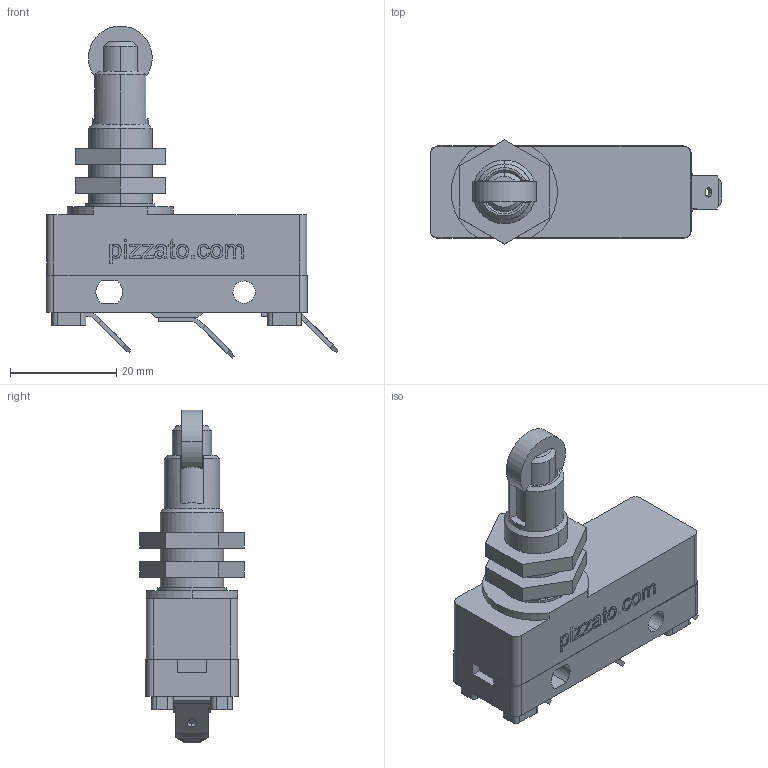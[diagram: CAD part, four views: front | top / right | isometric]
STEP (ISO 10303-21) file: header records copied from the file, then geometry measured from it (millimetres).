
FILE_DESCRIPTION (( 'STEP AP214' ), '1' );
FILE_NAME ('ZF_STEP_MF_15_.step', '2019-08-27T09:22:42', ( 'Pizzato Elettrica' ), ( 'Microsoft' ), 'SwSTEP 2.0', 'SolidWorks 2014', '' );
FILE_SCHEMA (( 'AUTOMOTIVE_DESIGN' ));
Length unit declared in the file: millimetre
Products named in the file (7): Pizzato_Pistoncino_MS15; Pizzato_Dado_35_35; Pizzato_supporto pistoncino_171_171; MF base 180; Pizzato_Faston_121; Pizzato_base 180_MF; ZF_STEP_MF_15_
Assembly tree (9 placements, depth 3):
  ZF_STEP_MF_15_
    MF base 180
      Pizzato_base 180_MF
      Pizzato_Faston_121  x3
    Pizzato_supporto pistoncino_171_171
    Pizzato_Dado_35_35  x2
    Pizzato_Pistoncino_MS15
Bounding box: 54.97 x 19.63 x 62.51 mm (x, y, z)
Volume: 19517.4 mm3; surface area: 10820.1 mm2
Topology: 9 solids, 9 shells, 382 faces, 996 edges, 662 vertices
Faces by surface type: plane 219, cylinder 84, bspline 69, cone 10
Entity records: 13785 total; most frequent: CARTESIAN_POINT 5764, ORIENTED_EDGE 1704, DIRECTION 1390, EDGE_CURVE 852, VERTEX_POINT 566, VECTOR 542, LINE 542, AXIS2_PLACEMENT_3D 424
